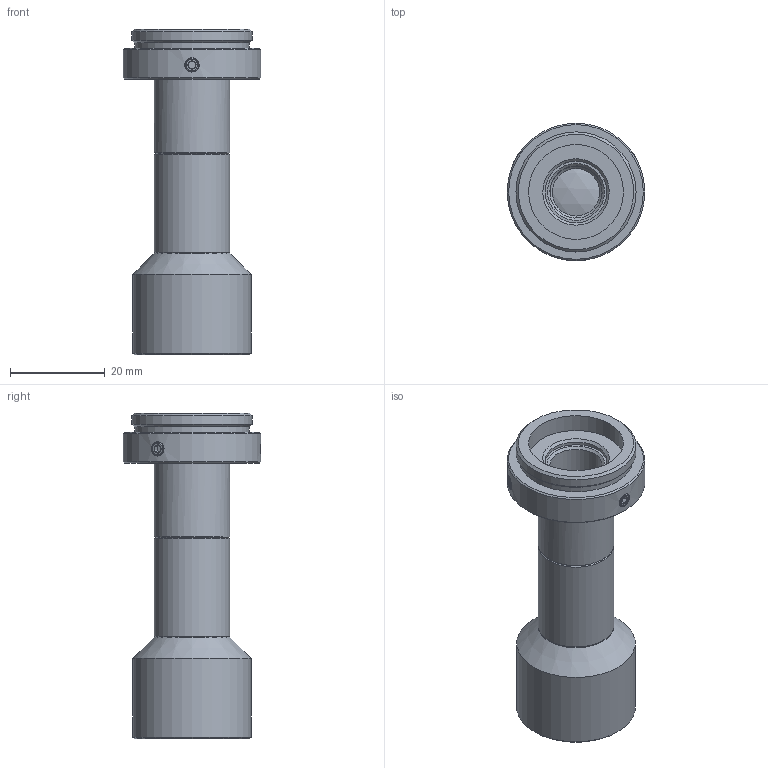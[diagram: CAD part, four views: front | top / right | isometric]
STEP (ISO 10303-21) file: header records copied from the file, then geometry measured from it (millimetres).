
FILE_DESCRIPTION(('STEP AP214'),'1');
FILE_NAME('RTK-1.5-M65.stp','2026-07-31T06:36:45',(' '),(' '),'Spatial InterOp 3D',' ',' ');
FILE_SCHEMA(('AUTOMOTIVE_DESIGN { 1 0 10303 214 1 1 1 1 }'));
Length unit declared in the file: metre
Products named in the file (2): RTK-1.5-M65; Component1
Assembly tree (1 placements, depth 2):
  RTK-1.5-M65
    Component1
Bounding box: 29 x 29 x 68.57 mm (x, y, z)
Volume: 12970.1 mm3; surface area: 10145.3 mm2
Topology: 1 solids, 1 shells, 128 faces, 298 edges, 198 vertices
Faces by surface type: plane 52, cone 46, cylinder 25, bspline 3, sphere 2
Full cylindrical faces by diameter (mm): 10 x1, 11 x1, 12.7 x1, 13 x2, 13.4 x1, 13.5 x1, 14 x1, 14.2 x1, 16 x4, 17.5 x2, 18 x1, 18.5 x1, 20 x1, 21 x2, 21.8 x1, 24.12 x1, 25 x1, 25.32 x1, 29 x1
Entity records: 4608 total; most frequent: CARTESIAN_POINT 955, DIRECTION 544, ORIENTED_EDGE 436, AXIS2_PLACEMENT_3D 226, EDGE_CURVE 218, EDGE_LOOP 208, VERTEX_POINT 172, FACE_OUTER_BOUND 156
